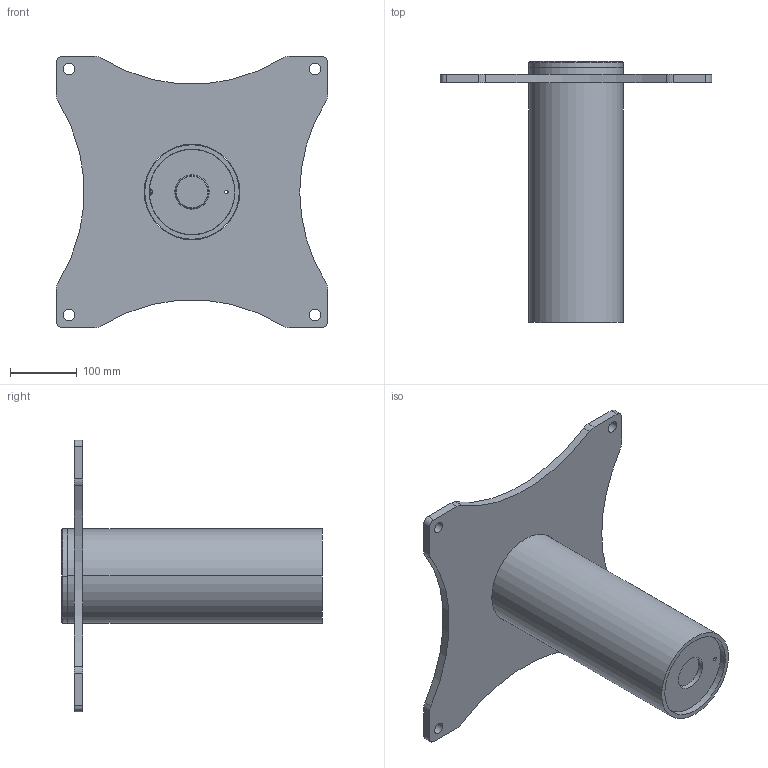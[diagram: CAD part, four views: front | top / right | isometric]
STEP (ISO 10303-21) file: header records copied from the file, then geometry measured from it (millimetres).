
FILE_DESCRIPTION (( 'STEP AP203' ), '1' );
FILE_NAME ('OZSOC4.STEP', '2022-03-02T20:35:49', ( '' ), ( '' ), 'SwSTEP 2.0', 'SolidWorks 2021', '' );
FILE_SCHEMA (( 'CONFIG_CONTROL_DESIGN' ));
Length unit declared in the file: inch
Products named in the file (7): SXB2005; SXB2101; SXB2004; SXB2100; OZSOC4; SXB2103; SXB2102
Assembly tree (6 placements, depth 3):
  OZSOC4
    SXB2100
      SXB2101
      SXB2103
      SXB2102
      SXB2004
    SXB2005
Bounding box: 406.4 x 390.52 x 406.4 mm (x, y, z)
Volume: 3191253.7 mm3; surface area: 739250 mm2
Topology: 5 solids, 5 shells, 97 faces, 230 edges, 146 vertices
Faces by surface type: cylinder 50, plane 25, cone 16, torus 6
Entity records: 3638 total; most frequent: DIRECTION 571, CARTESIAN_POINT 494, ORIENTED_EDGE 460, AXIS2_PLACEMENT_3D 237, EDGE_CURVE 230, VERTEX_POINT 146, CIRCLE 130, EDGE_LOOP 118
